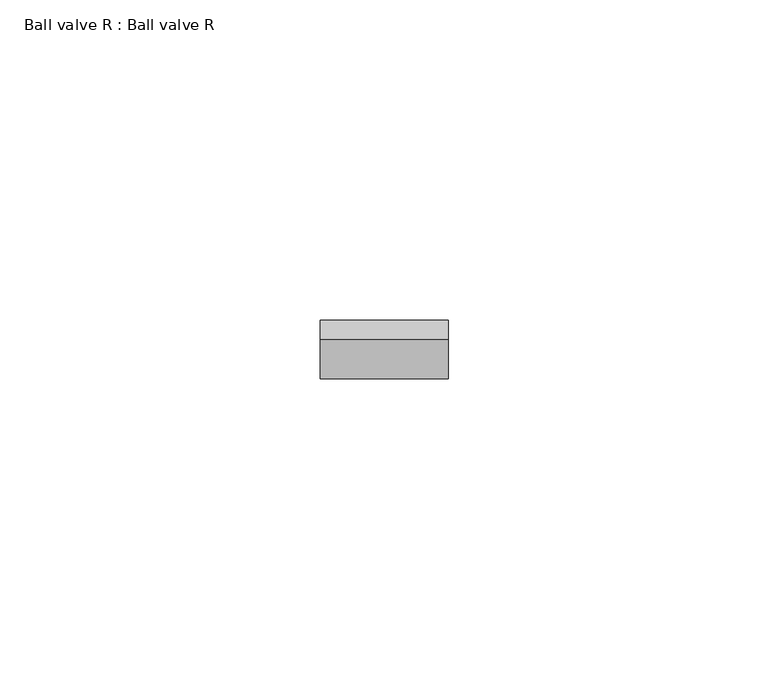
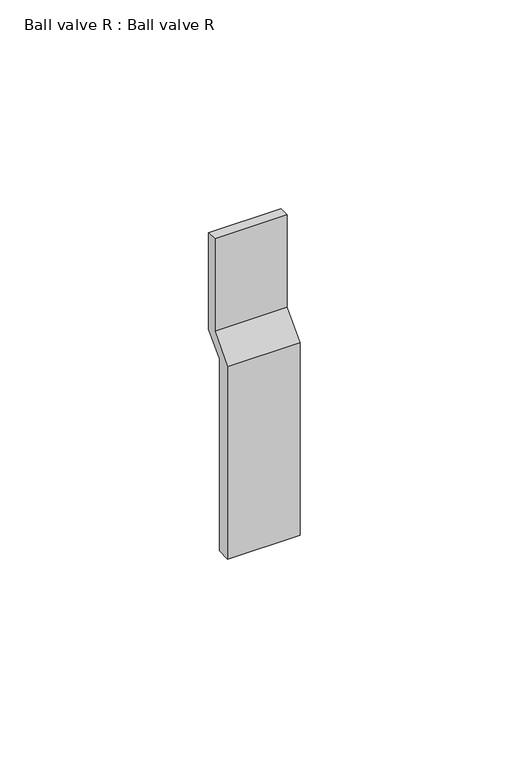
"""IFC4 building model written with IfcOpenShell, lengths in millimetres: proxy geometry, Ball valve R : Ball valve R."""

from ifc_helpers import new_model, si_unit, frame, origin, place, context, project, spatial, polyline, outline, extrude, source, transform, mapped, element, save


def ball_valve_r_ball_valve_r_349549ab(model_context):
    return source(origin(), model_context, "Body", "SweptSolid", [
        extrude(outline(polyline([(2.0, -61.4027321), (-2.0, -61.4027321), (-2.0, -5.0690551), (4.2, 1.496453), (4.2, 28.5), (7.2, 28.5), (7.2, 0.3038231), (2.0, -5.2027321), (2.0, -61.4027321)])), frame((-10.0, 0.0, 0.0), z_axis=(1.0, 0.0, 0.0), x_axis=(0.0, 1.0, 0.0)), (0.0, 0.0, 1.0), 20.0),
    ])


if __name__ == "__main__":
    model = new_model("IFC4")
    model_context = context("Model", 3, world=origin())
    ifc_project = project(units=[si_unit("LENGTHUNIT", "METRE", prefix="MILLI")], contexts=[model_context])
    site = spatial("IfcSite", under=ifc_project)
    building = spatial("IfcBuilding", under=site)
    placement = place(None, origin())
    ball_valve_r_ball_valve_r_shape = ball_valve_r_ball_valve_r_349549ab(model_context)
    element("IfcBuildingElementProxy", 1, Name="Ball valve R : Ball valve R", ObjectType="Ball valve R : Ball valve R", at=placement, inside=building, context=model_context, shape_type="MappedRepresentation", body=[
        mapped(ball_valve_r_ball_valve_r_shape, transform((0.0, 0.0, 0.0), x_axis=(1.0, 0.0, 0.0), y_axis=(0.0, 1.0, 0.0), z_axis=(0.0, 0.0, 1.0))),
    ])
    save(model, "model.ifc")
